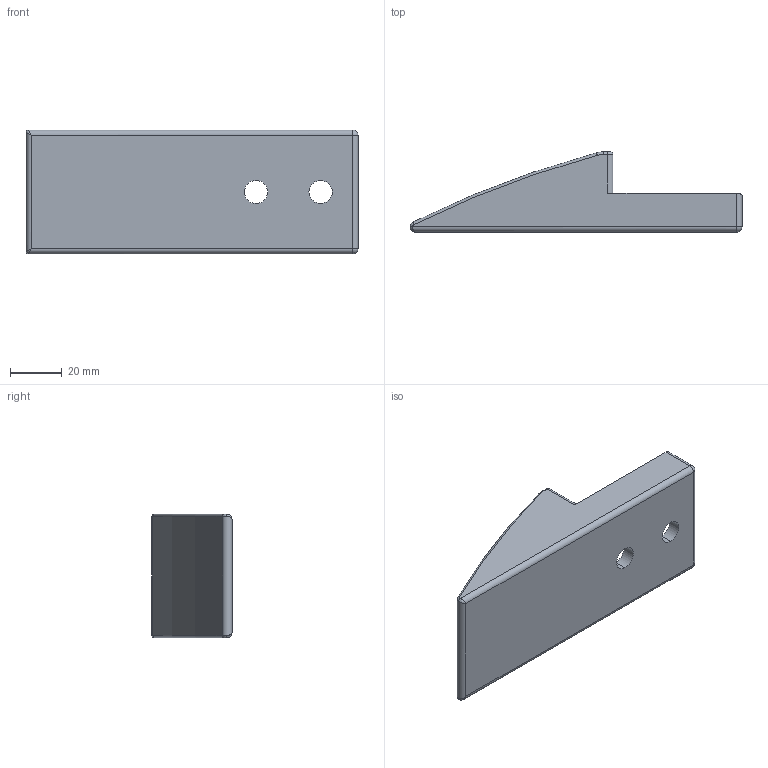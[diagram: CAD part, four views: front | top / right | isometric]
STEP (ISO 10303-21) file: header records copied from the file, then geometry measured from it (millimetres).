
FILE_DESCRIPTION (( 'STEP AP214' ), '1' );
FILE_NAME ('FGEC L1.step', '2017-04-05T07:37:16', ( '' ), ( '' ), 'SwSTEP 2.0', 'SolidWorks 2015', '' );
FILE_SCHEMA (( 'AUTOMOTIVE_DESIGN' ));
Length unit declared in the file: millimetre
Products named in the file (1): FGEC L1
Bounding box: 128.58 x 31 x 48 mm (x, y, z)
Volume: 94864.8 mm3; surface area: 18935.6 mm2
Topology: 1 solids, 1 shells, 72 faces, 176 edges, 100 vertices
Faces by surface type: cylinder 33, plane 19, torus 14, sphere 4, bspline 2
Entity records: 2176 total; most frequent: CARTESIAN_POINT 449, DIRECTION 388, ORIENTED_EDGE 340, EDGE_CURVE 170, AXIS2_PLACEMENT_3D 155, VERTEX_POINT 100, CIRCLE 84, LINE 78
